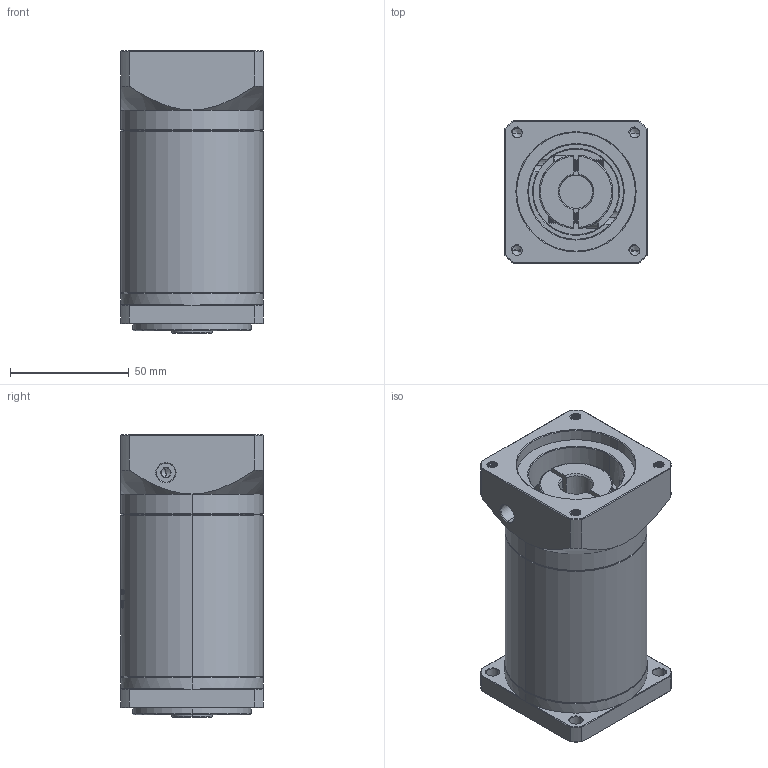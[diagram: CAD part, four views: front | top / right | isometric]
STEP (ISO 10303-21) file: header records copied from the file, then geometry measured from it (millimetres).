
FILE_DESCRIPTION (( 'STEP AP214' ), '1' );
FILE_NAME ('ZF060-K10-L3-P2-14-50-70-M5.step', '2023-08-16T04:32:36', ( '' ), ( '' ), 'SwSTEP 2.0', 'SolidWorks 2016', '' );
FILE_SCHEMA (( 'AUTOMOTIVE_DESIGN' ));
Length unit declared in the file: millimetre
Products named in the file (1): ZF060-K10-L3-P2-14-50-70-M5
Bounding box: 60 x 60 x 119 mm (x, y, z)
Volume: 312628.7 mm3; surface area: 49661.8 mm2
Topology: 6 solids, 6 shells, 1701 faces, 4612 edges, 2993 vertices
Faces by surface type: plane 787, bspline 347, cylinder 321, cone 228, torus 18
Entity records: 95165 total; most frequent: CARTESIAN_POINT 37591, ORIENTED_EDGE 9200, DIRECTION 6618, EDGE_CURVE 4600, VERTEX_POINT 2993, VECTOR 2368, LINE 2368, AXIS2_PLACEMENT_3D 2125
